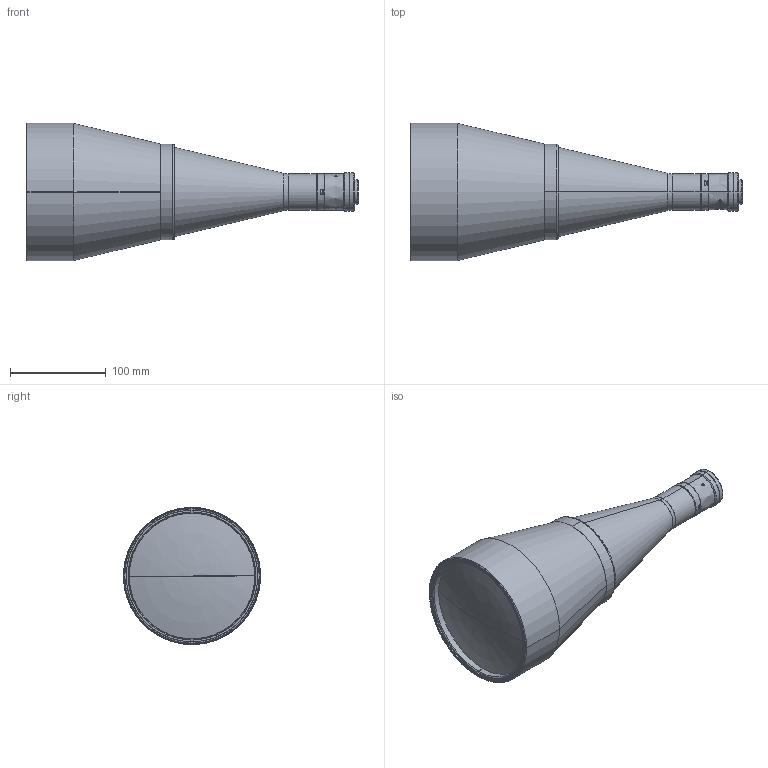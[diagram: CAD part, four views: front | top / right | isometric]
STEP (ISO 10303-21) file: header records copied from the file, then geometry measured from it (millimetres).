
FILE_DESCRIPTION(('LS-TCL-0230'),'2;1');
FILE_NAME('LS-TCL-0230.stp','2026-10-15T21:54:52',('LumaSpec Vision'),('LumaSpec Vision'),'LumaSpec Vision','LumaSpec Vision','');
FILE_SCHEMA(('AUTOMOTIVE_DESIGN { 1 0 10303 214 1 1 1 1 }'));
Length unit declared in the file: millimetre
Products named in the file (123): LumaSpec Vision
Assembly tree (122 placements, depth 2):
  LumaSpec Vision
    LumaSpec Vision
    LumaSpec Vision
    LumaSpec Vision
    LumaSpec Vision
    LumaSpec Vision
    LumaSpec Vision
    LumaSpec Vision
    LumaSpec Vision
    LumaSpec Vision
    LumaSpec Vision
    LumaSpec Vision
    LumaSpec Vision
    LumaSpec Vision
    LumaSpec Vision
    LumaSpec Vision
    LumaSpec Vision
    LumaSpec Vision
    LumaSpec Vision
    LumaSpec Vision
    LumaSpec Vision
    LumaSpec Vision
    LumaSpec Vision
    LumaSpec Vision
    LumaSpec Vision
    LumaSpec Vision
    LumaSpec Vision
    LumaSpec Vision
    LumaSpec Vision
    LumaSpec Vision
    LumaSpec Vision
    LumaSpec Vision
    LumaSpec Vision
    LumaSpec Vision
    LumaSpec Vision
    LumaSpec Vision
    LumaSpec Vision
    LumaSpec Vision
    LumaSpec Vision
    LumaSpec Vision
    LumaSpec Vision
    LumaSpec Vision
    LumaSpec Vision
    LumaSpec Vision
    LumaSpec Vision
    LumaSpec Vision
    LumaSpec Vision
    LumaSpec Vision
    LumaSpec Vision
    LumaSpec Vision
    LumaSpec Vision
    LumaSpec Vision
    LumaSpec Vision
    LumaSpec Vision
    LumaSpec Vision
    LumaSpec Vision
    LumaSpec Vision
    LumaSpec Vision
    LumaSpec Vision
    LumaSpec Vision
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Bounding box: 346.18 x 143 x 143 mm (x, y, z)
Surface area: 134113.1 mm2 (no closed solid volume)
Topology: 0 solids, 122 shells, 122 faces, 2634 edges, 2633 vertices
Faces by surface type: revolution 62, bspline 60
Entity records: 43143 total; most frequent: CARTESIAN_POINT 17850, B_SPLINE_CURVE_WITH_KNOTS 4808, ORIENTED_EDGE 2633, EDGE_CURVE 2633, VERTEX_POINT 2633, SURFACE_CURVE 2633, PCURVE 2633, DEFINITIONAL_REPRESENTATION 2633
